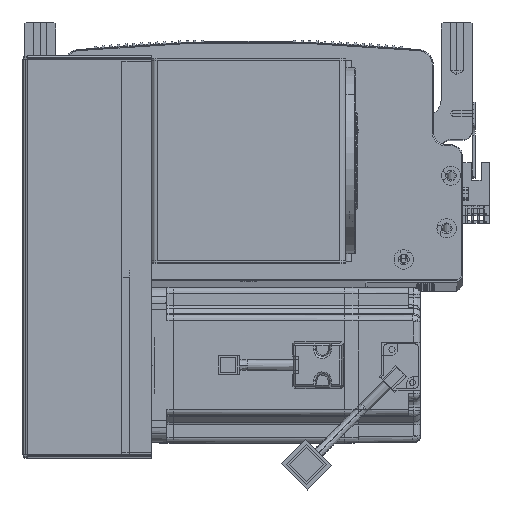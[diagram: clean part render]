
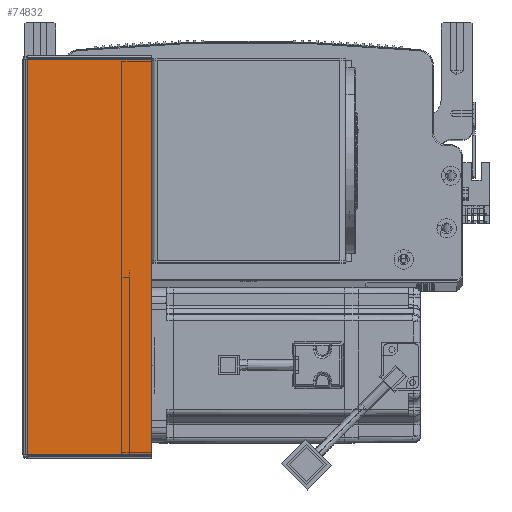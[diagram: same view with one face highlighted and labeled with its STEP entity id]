
A CAD part, top view. The second image highlights one B-rep face of the part: STEP entity #74832.
In plain terms, the highlighted planar face has unit normal (0, 0, 1) as drawn and (0, -1, 0) by its records, which use the part's own axes.
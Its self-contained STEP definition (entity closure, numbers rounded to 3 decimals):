
#183 = ORIENTED_EDGE ( 'NONE', *, *, #52608, .T. ) ;
#4444 = VECTOR ( 'NONE', #81008, 1000. ) ;
#9114 = EDGE_CURVE ( 'NONE', #14335, #23905, #43193, .T. ) ;
#10026 = DIRECTION ( 'NONE',  ( -1., 0., 0. ) ) ;
#10654 = VECTOR ( 'NONE', #15952, 1000. ) ;
#12520 = VECTOR ( 'NONE', #85848, 1000. ) ;
#13583 = ORIENTED_EDGE ( 'NONE', *, *, #92675, .F. ) ;
#14335 = VERTEX_POINT ( 'NONE', #62242 ) ;
#15952 = DIRECTION ( 'NONE',  ( 1., 0., 0. ) ) ;
#17848 = VERTEX_POINT ( 'NONE', #77764 ) ;
#23060 = ORIENTED_EDGE ( 'NONE', *, *, #71984, .T. ) ;
#23905 = VERTEX_POINT ( 'NONE', #90121 ) ;
#24212 = CARTESIAN_POINT ( 'NONE',  ( 0., -1.5, -0.707 ) ) ;
#25044 = AXIS2_PLACEMENT_3D ( 'NONE', #48434, #54182, #10026 ) ;
#26340 = LINE ( 'NONE', #50758, #4444 ) ;
#33889 = PLANE ( 'NONE',  #25044 ) ;
#37980 = VERTEX_POINT ( 'NONE', #79783 ) ;
#43193 = LINE ( 'NONE', #24212, #89352 ) ;
#48434 = CARTESIAN_POINT ( 'NONE',  ( 0., -1.5, 0. ) ) ;
#50758 = CARTESIAN_POINT ( 'NONE',  ( 64.5, -1.5, 0. ) ) ;
#52608 = EDGE_CURVE ( 'NONE', #17848, #23905, #26340, .T. ) ;
#53015 = CARTESIAN_POINT ( 'NONE',  ( 0., -1.5, -203.293 ) ) ;
#54182 = DIRECTION ( 'NONE',  ( 0., 1., 0. ) ) ;
#56188 = FACE_OUTER_BOUND ( 'NONE', #74303, .T. ) ;
#60638 = DIRECTION ( 'NONE',  ( 1., 0., 0. ) ) ;
#62242 = CARTESIAN_POINT ( 'NONE',  ( 0.737, -1.5, -0.707 ) ) ;
#64810 = CARTESIAN_POINT ( 'NONE',  ( 0.737, -1.5, 0. ) ) ;
#71661 = ORIENTED_EDGE ( 'NONE', *, *, #9114, .F. ) ;
#71984 = EDGE_CURVE ( 'NONE', #37980, #17848, #76385, .T. ) ;
#74303 = EDGE_LOOP ( 'NONE', ( #13583, #23060, #183, #71661 ) ) ;
#74832 = ADVANCED_FACE ( 'NONE', ( #56188 ), #33889, .F. ) ;
#76385 = LINE ( 'NONE', #53015, #10654 ) ;
#77764 = CARTESIAN_POINT ( 'NONE',  ( 64.5, -1.5, -203.293 ) ) ;
#79783 = CARTESIAN_POINT ( 'NONE',  ( 0.737, -1.5, -203.293 ) ) ;
#81008 = DIRECTION ( 'NONE',  ( 0., 0., 1. ) ) ;
#84049 = LINE ( 'NONE', #64810, #12520 ) ;
#85848 = DIRECTION ( 'NONE',  ( 0., 0., 1. ) ) ;
#89352 = VECTOR ( 'NONE', #60638, 1000. ) ;
#90121 = CARTESIAN_POINT ( 'NONE',  ( 64.5, -1.5, -0.707 ) ) ;
#92675 = EDGE_CURVE ( 'NONE', #37980, #14335, #84049, .T. ) ;
